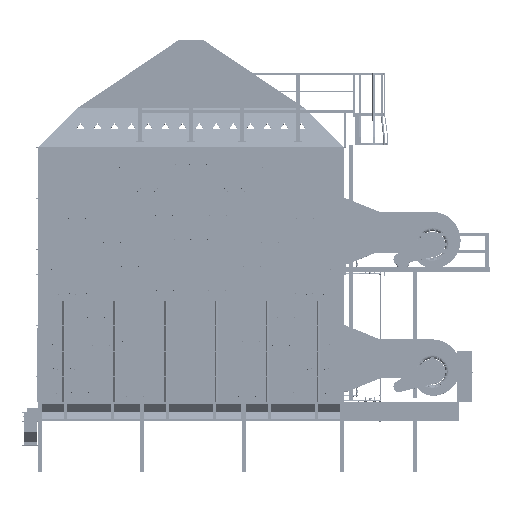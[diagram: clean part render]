
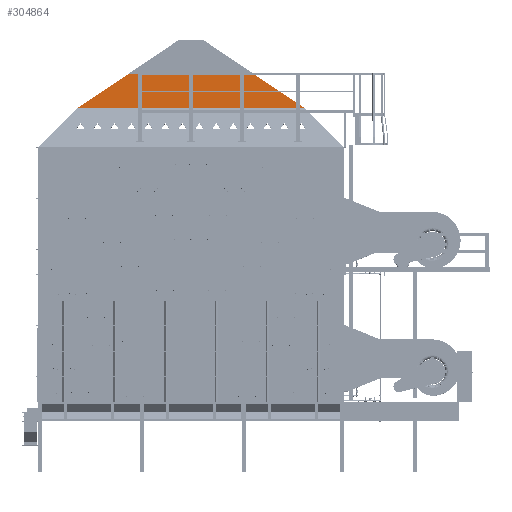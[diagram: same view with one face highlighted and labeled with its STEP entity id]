
A CAD part, top view. The second image highlights one B-rep face of the part: STEP entity #304864.
In plain terms, the highlighted planar face has unit normal (0, 0, 1) as drawn and (0, -1, 0) by its records, which use the part's own axes.
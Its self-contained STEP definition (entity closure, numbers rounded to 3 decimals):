
#45958=FACE_OUTER_BOUND('',#63378,.T.);
#63378=EDGE_LOOP('',(#209261,#209262,#209263,#209264));
#83569=LINE('',#434122,#108795);
#83574=LINE('',#434133,#108800);
#83577=LINE('',#434139,#108803);
#83580=LINE('',#434144,#108806);
#108795=VECTOR('',#353286,0.394);
#108800=VECTOR('',#353301,0.394);
#108803=VECTOR('',#353306,0.394);
#108806=VECTOR('',#353311,0.394);
#133605=VERTEX_POINT('',#434115);
#133608=VERTEX_POINT('',#434120);
#133609=VERTEX_POINT('',#434132);
#133611=VERTEX_POINT('',#434138);
#162877=EDGE_CURVE('',#133605,#133608,#83569,.T.);
#162882=EDGE_CURVE('',#133608,#133609,#83574,.T.);
#162885=EDGE_CURVE('',#133611,#133605,#83577,.T.);
#162888=EDGE_CURVE('',#133611,#133609,#83580,.T.);
#209261=ORIENTED_EDGE('',*,*,#162882,.T.);
#209262=ORIENTED_EDGE('',*,*,#162888,.F.);
#209263=ORIENTED_EDGE('',*,*,#162885,.T.);
#209264=ORIENTED_EDGE('',*,*,#162877,.T.);
#296821=PLANE('',#323906);
#304864=ADVANCED_FACE('',(#45958),#296821,.T.);
#323906=AXIS2_PLACEMENT_3D('',#434143,#353309,#353310);
#353286=DIRECTION('',(-1.,0.,0.));
#353301=DIRECTION('',(-0.833,0.,-0.553));
#353306=DIRECTION('',(-0.833,0.,0.553));
#353309=DIRECTION('center_axis',(0.,-1.,0.));
#353310=DIRECTION('ref_axis',(0.,0.,-1.));
#353311=DIRECTION('',(-1.,0.,0.));
#434115=CARTESIAN_POINT('',(58.625,-6.,68.042));
#434120=CARTESIAN_POINT('',(-58.625,-6.,68.042));
#434122=CARTESIAN_POINT('',(-106.75,-6.,68.042));
#434132=CARTESIAN_POINT('',(-106.75,-6.,36.079));
#434133=CARTESIAN_POINT('',(-8.613,-6.,101.258));
#434138=CARTESIAN_POINT('',(106.75,-6.,36.079));
#434139=CARTESIAN_POINT('',(106.75,-6.,36.079));
#434143=CARTESIAN_POINT('Origin',(106.75,-6.,36.079));
#434144=CARTESIAN_POINT('',(53.375,-6.,36.079));
